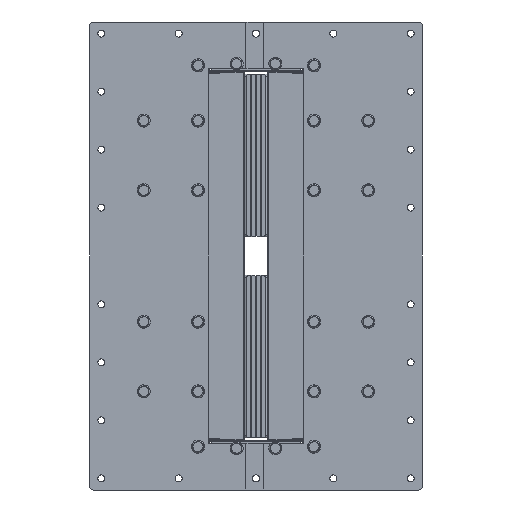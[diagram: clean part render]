
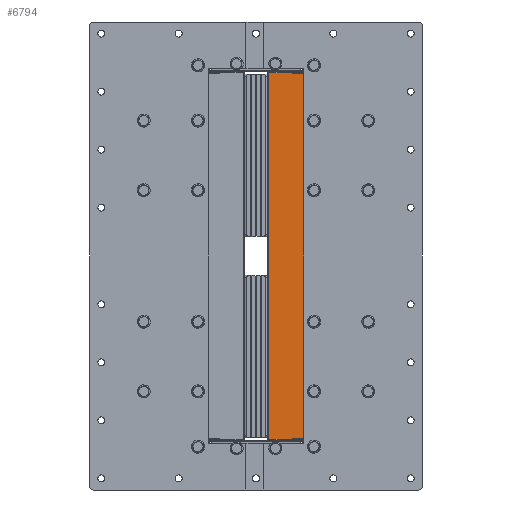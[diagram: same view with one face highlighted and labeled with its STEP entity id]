
A CAD part, left-side view. The second image highlights one B-rep face of the part: STEP entity #6794.
In plain terms, the highlighted planar face has unit normal (-1, 0, 0).
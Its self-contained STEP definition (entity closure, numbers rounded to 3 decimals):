
#5860=AXIS2_PLACEMENT_3D('Plane Axis2P3D',#5857,#5858,#5859) ;
#5994=AXIS2_PLACEMENT_3D('Circle Axis2P3D',#5992,#5993,$) ;
#6056=AXIS2_PLACEMENT_3D('Circle Axis2P3D',#6054,#6055,$) ;
#6332=AXIS2_PLACEMENT_3D('Circle Axis2P3D',#6330,#6331,$) ;
#6380=AXIS2_PLACEMENT_3D('Circle Axis2P3D',#6378,#6379,$) ;
#6688=AXIS2_PLACEMENT_3D('Circle Axis2P3D',#6686,#6687,$) ;
#6697=AXIS2_PLACEMENT_3D('Circle Axis2P3D',#6695,#6696,$) ;
#6706=AXIS2_PLACEMENT_3D('Circle Axis2P3D',#6704,#6705,$) ;
#6715=AXIS2_PLACEMENT_3D('Circle Axis2P3D',#6713,#6714,$) ;
#6724=AXIS2_PLACEMENT_3D('Circle Axis2P3D',#6722,#6723,$) ;
#6733=AXIS2_PLACEMENT_3D('Circle Axis2P3D',#6731,#6732,$) ;
#6742=AXIS2_PLACEMENT_3D('Circle Axis2P3D',#6740,#6741,$) ;
#6751=AXIS2_PLACEMENT_3D('Circle Axis2P3D',#6749,#6750,$) ;
#6760=AXIS2_PLACEMENT_3D('Circle Axis2P3D',#6758,#6759,$) ;
#6769=AXIS2_PLACEMENT_3D('Circle Axis2P3D',#6767,#6768,$) ;
#6778=AXIS2_PLACEMENT_3D('Circle Axis2P3D',#6776,#6777,$) ;
#6787=AXIS2_PLACEMENT_3D('Circle Axis2P3D',#6785,#6786,$) ;
#5857=CARTESIAN_POINT('Axis2P3D Location',(0.,0.,0.)) ;
#5898=CARTESIAN_POINT('Vertex',(0.,-60.,238.5)) ;
#5903=CARTESIAN_POINT('Line Origine',(0.,-60.,249.25)) ;
#5907=CARTESIAN_POINT('Vertex',(0.,-60.,260.)) ;
#5961=CARTESIAN_POINT('Line Origine',(0.,-69.,260.)) ;
#5965=CARTESIAN_POINT('Vertex',(0.,-78.,260.)) ;
#5992=CARTESIAN_POINT('Axis2P3D Location',(0.,-78.,255.)) ;
#5996=CARTESIAN_POINT('Vertex',(0.,-83.,255.)) ;
#6023=CARTESIAN_POINT('Line Origine',(0.,-83.,0.)) ;
#6027=CARTESIAN_POINT('Vertex',(0.,-83.,-255.)) ;
#6054=CARTESIAN_POINT('Axis2P3D Location',(0.,-78.,-255.)) ;
#6058=CARTESIAN_POINT('Vertex',(0.,-78.,-260.)) ;
#6085=CARTESIAN_POINT('Line Origine',(0.,-69.,-260.)) ;
#6089=CARTESIAN_POINT('Vertex',(0.,-60.,-260.)) ;
#6111=CARTESIAN_POINT('Line Origine',(0.,-60.,-249.25)) ;
#6115=CARTESIAN_POINT('Vertex',(0.,-60.,-238.5)) ;
#6155=CARTESIAN_POINT('Vertex',(0.,-57.5,237.)) ;
#6158=CARTESIAN_POINT('Line Origine',(0.,-57.5,237.75)) ;
#6162=CARTESIAN_POINT('Vertex',(0.,-57.5,238.5)) ;
#6193=CARTESIAN_POINT('Vertex',(0.,-16.62,237.)) ;
#6196=CARTESIAN_POINT('Line Origine',(0.,-37.06,237.)) ;
#6327=CARTESIAN_POINT('Vertex',(0.,-16.12,236.5)) ;
#6330=CARTESIAN_POINT('Axis2P3D Location',(0.,-16.62,236.5)) ;
#6351=CARTESIAN_POINT('Vertex',(0.,-16.12,-236.5)) ;
#6354=CARTESIAN_POINT('Line Origine',(0.,-16.12,0.)) ;
#6375=CARTESIAN_POINT('Vertex',(0.,-16.62,-237.)) ;
#6378=CARTESIAN_POINT('Axis2P3D Location',(0.,-16.62,-236.5)) ;
#6399=CARTESIAN_POINT('Vertex',(0.,-57.5,-237.)) ;
#6402=CARTESIAN_POINT('Line Origine',(0.,-37.06,-237.)) ;
#6418=CARTESIAN_POINT('Vertex',(0.,-57.5,-238.5)) ;
#6421=CARTESIAN_POINT('Line Origine',(0.,-57.5,-237.75)) ;
#6460=CARTESIAN_POINT('Line Origine',(0.,-58.75,-238.5)) ;
#6521=CARTESIAN_POINT('Line Origine',(0.,-58.75,238.5)) ;
#6686=CARTESIAN_POINT('Axis2P3D Location',(0.,-75.,175.)) ;
#6690=CARTESIAN_POINT('Vertex',(0.,-79.5,175.)) ;
#6692=CARTESIAN_POINT('Vertex',(0.,-70.5,175.)) ;
#6695=CARTESIAN_POINT('Axis2P3D Location',(0.,-75.,175.)) ;
#6704=CARTESIAN_POINT('Axis2P3D Location',(0.,-75.,85.)) ;
#6708=CARTESIAN_POINT('Vertex',(0.,-79.5,85.)) ;
#6710=CARTESIAN_POINT('Vertex',(0.,-70.5,85.)) ;
#6713=CARTESIAN_POINT('Axis2P3D Location',(0.,-75.,85.)) ;
#6722=CARTESIAN_POINT('Axis2P3D Location',(0.,-75.,-85.)) ;
#6726=CARTESIAN_POINT('Vertex',(0.,-79.5,-85.)) ;
#6728=CARTESIAN_POINT('Vertex',(0.,-70.5,-85.)) ;
#6731=CARTESIAN_POINT('Axis2P3D Location',(0.,-75.,-85.)) ;
#6740=CARTESIAN_POINT('Axis2P3D Location',(0.,-75.,-175.)) ;
#6744=CARTESIAN_POINT('Vertex',(0.,-79.5,-175.)) ;
#6746=CARTESIAN_POINT('Vertex',(0.,-70.5,-175.)) ;
#6749=CARTESIAN_POINT('Axis2P3D Location',(0.,-75.,-175.)) ;
#6758=CARTESIAN_POINT('Axis2P3D Location',(0.,-75.,246.5)) ;
#6762=CARTESIAN_POINT('Vertex',(0.,-79.5,246.5)) ;
#6764=CARTESIAN_POINT('Vertex',(0.,-70.5,246.5)) ;
#6767=CARTESIAN_POINT('Axis2P3D Location',(0.,-75.,246.5)) ;
#6776=CARTESIAN_POINT('Axis2P3D Location',(0.,-75.,-246.5)) ;
#6780=CARTESIAN_POINT('Vertex',(0.,-79.5,-246.5)) ;
#6782=CARTESIAN_POINT('Vertex',(0.,-70.5,-246.5)) ;
#6785=CARTESIAN_POINT('Axis2P3D Location',(0.,-75.,-246.5)) ;
#5858=DIRECTION('Axis2P3D Direction',(1.,0.,0.)) ;
#5859=DIRECTION('Axis2P3D XDirection',(0.,1.,0.)) ;
#5904=DIRECTION('Vector Direction',(0.,0.,-1.)) ;
#5962=DIRECTION('Vector Direction',(0.,-1.,0.)) ;
#5993=DIRECTION('Axis2P3D Direction',(1.,0.,0.)) ;
#6024=DIRECTION('Vector Direction',(0.,0.,1.)) ;
#6055=DIRECTION('Axis2P3D Direction',(1.,0.,0.)) ;
#6086=DIRECTION('Vector Direction',(0.,1.,0.)) ;
#6112=DIRECTION('Vector Direction',(0.,0.,-1.)) ;
#6159=DIRECTION('Vector Direction',(0.,0.,-1.)) ;
#6197=DIRECTION('Vector Direction',(0.,1.,0.)) ;
#6331=DIRECTION('Axis2P3D Direction',(1.,0.,0.)) ;
#6355=DIRECTION('Vector Direction',(0.,0.,1.)) ;
#6379=DIRECTION('Axis2P3D Direction',(1.,0.,0.)) ;
#6403=DIRECTION('Vector Direction',(0.,-1.,0.)) ;
#6422=DIRECTION('Vector Direction',(0.,0.,-1.)) ;
#6461=DIRECTION('Vector Direction',(0.,1.,0.)) ;
#6522=DIRECTION('Vector Direction',(0.,-1.,0.)) ;
#6687=DIRECTION('Axis2P3D Direction',(1.,0.,0.)) ;
#6696=DIRECTION('Axis2P3D Direction',(1.,0.,0.)) ;
#6705=DIRECTION('Axis2P3D Direction',(1.,0.,0.)) ;
#6714=DIRECTION('Axis2P3D Direction',(1.,0.,0.)) ;
#6723=DIRECTION('Axis2P3D Direction',(1.,0.,0.)) ;
#6732=DIRECTION('Axis2P3D Direction',(1.,0.,0.)) ;
#6741=DIRECTION('Axis2P3D Direction',(1.,0.,0.)) ;
#6750=DIRECTION('Axis2P3D Direction',(1.,0.,0.)) ;
#6759=DIRECTION('Axis2P3D Direction',(1.,0.,0.)) ;
#6768=DIRECTION('Axis2P3D Direction',(1.,0.,0.)) ;
#6777=DIRECTION('Axis2P3D Direction',(1.,0.,0.)) ;
#6786=DIRECTION('Axis2P3D Direction',(1.,0.,0.)) ;
#5905=VECTOR('Line Direction',#5904,1.) ;
#5963=VECTOR('Line Direction',#5962,1.) ;
#6025=VECTOR('Line Direction',#6024,1.) ;
#6087=VECTOR('Line Direction',#6086,1.) ;
#6113=VECTOR('Line Direction',#6112,1.) ;
#6160=VECTOR('Line Direction',#6159,1.) ;
#6198=VECTOR('Line Direction',#6197,1.) ;
#6356=VECTOR('Line Direction',#6355,1.) ;
#6404=VECTOR('Line Direction',#6403,1.) ;
#6423=VECTOR('Line Direction',#6422,1.) ;
#6462=VECTOR('Line Direction',#6461,1.) ;
#6523=VECTOR('Line Direction',#6522,1.) ;
#6669=ORIENTED_EDGE('',*,*,#6164,.T.) ;
#6670=ORIENTED_EDGE('',*,*,#6200,.T.) ;
#6671=ORIENTED_EDGE('',*,*,#6334,.T.) ;
#6672=ORIENTED_EDGE('',*,*,#6358,.T.) ;
#6673=ORIENTED_EDGE('',*,*,#6382,.T.) ;
#6674=ORIENTED_EDGE('',*,*,#6406,.T.) ;
#6675=ORIENTED_EDGE('',*,*,#6425,.T.) ;
#6676=ORIENTED_EDGE('',*,*,#6464,.F.) ;
#6677=ORIENTED_EDGE('',*,*,#6117,.F.) ;
#6678=ORIENTED_EDGE('',*,*,#6091,.F.) ;
#6679=ORIENTED_EDGE('',*,*,#6060,.F.) ;
#6680=ORIENTED_EDGE('',*,*,#6029,.F.) ;
#6681=ORIENTED_EDGE('',*,*,#5998,.F.) ;
#6682=ORIENTED_EDGE('',*,*,#5967,.F.) ;
#6683=ORIENTED_EDGE('',*,*,#5909,.F.) ;
#6684=ORIENTED_EDGE('',*,*,#6525,.F.) ;
#6701=ORIENTED_EDGE('',*,*,#6694,.T.) ;
#6702=ORIENTED_EDGE('',*,*,#6699,.T.) ;
#6719=ORIENTED_EDGE('',*,*,#6712,.T.) ;
#6720=ORIENTED_EDGE('',*,*,#6717,.T.) ;
#6737=ORIENTED_EDGE('',*,*,#6730,.T.) ;
#6738=ORIENTED_EDGE('',*,*,#6735,.T.) ;
#6755=ORIENTED_EDGE('',*,*,#6748,.T.) ;
#6756=ORIENTED_EDGE('',*,*,#6753,.T.) ;
#6773=ORIENTED_EDGE('',*,*,#6766,.T.) ;
#6774=ORIENTED_EDGE('',*,*,#6771,.T.) ;
#6791=ORIENTED_EDGE('',*,*,#6784,.T.) ;
#6792=ORIENTED_EDGE('',*,*,#6789,.T.) ;
#6703=FACE_BOUND('',#6700,.T.) ;
#6721=FACE_BOUND('',#6718,.T.) ;
#6739=FACE_BOUND('',#6736,.T.) ;
#6757=FACE_BOUND('',#6754,.T.) ;
#6775=FACE_BOUND('',#6772,.T.) ;
#6793=FACE_BOUND('',#6790,.T.) ;
#6794=ADVANCED_FACE('Laterale(L3)',(#6685,#6703,#6721,#6739,#6757,#6775,#6793),#5861,.F.) ;
#5995=CIRCLE('generated circle',#5994,5.) ;
#6057=CIRCLE('generated circle',#6056,5.) ;
#6333=CIRCLE('generated circle',#6332,0.5) ;
#6381=CIRCLE('generated circle',#6380,0.5) ;
#6689=CIRCLE('generated circle',#6688,4.5) ;
#6698=CIRCLE('generated circle',#6697,4.5) ;
#6707=CIRCLE('generated circle',#6706,4.5) ;
#6716=CIRCLE('generated circle',#6715,4.5) ;
#6725=CIRCLE('generated circle',#6724,4.5) ;
#6734=CIRCLE('generated circle',#6733,4.5) ;
#6743=CIRCLE('generated circle',#6742,4.5) ;
#6752=CIRCLE('generated circle',#6751,4.5) ;
#6761=CIRCLE('generated circle',#6760,4.5) ;
#6770=CIRCLE('generated circle',#6769,4.5) ;
#6779=CIRCLE('generated circle',#6778,4.5) ;
#6788=CIRCLE('generated circle',#6787,4.5) ;
#5909=EDGE_CURVE('',#5899,#5908,#5906,.F.) ;
#5967=EDGE_CURVE('',#5908,#5966,#5964,.T.) ;
#5998=EDGE_CURVE('',#5966,#5997,#5995,.T.) ;
#6029=EDGE_CURVE('',#5997,#6028,#6026,.F.) ;
#6060=EDGE_CURVE('',#6028,#6059,#6057,.T.) ;
#6091=EDGE_CURVE('',#6059,#6090,#6088,.T.) ;
#6117=EDGE_CURVE('',#6090,#6116,#6114,.F.) ;
#6164=EDGE_CURVE('',#6163,#6156,#6161,.T.) ;
#6200=EDGE_CURVE('',#6156,#6194,#6199,.T.) ;
#6334=EDGE_CURVE('',#6194,#6328,#6333,.F.) ;
#6358=EDGE_CURVE('',#6328,#6352,#6357,.F.) ;
#6382=EDGE_CURVE('',#6352,#6376,#6381,.F.) ;
#6406=EDGE_CURVE('',#6376,#6400,#6405,.T.) ;
#6425=EDGE_CURVE('',#6400,#6419,#6424,.T.) ;
#6464=EDGE_CURVE('',#6116,#6419,#6463,.T.) ;
#6525=EDGE_CURVE('',#6163,#5899,#6524,.T.) ;
#6694=EDGE_CURVE('',#6691,#6693,#6689,.T.) ;
#6699=EDGE_CURVE('',#6693,#6691,#6698,.T.) ;
#6712=EDGE_CURVE('',#6709,#6711,#6707,.T.) ;
#6717=EDGE_CURVE('',#6711,#6709,#6716,.T.) ;
#6730=EDGE_CURVE('',#6727,#6729,#6725,.T.) ;
#6735=EDGE_CURVE('',#6729,#6727,#6734,.T.) ;
#6748=EDGE_CURVE('',#6745,#6747,#6743,.T.) ;
#6753=EDGE_CURVE('',#6747,#6745,#6752,.T.) ;
#6766=EDGE_CURVE('',#6763,#6765,#6761,.T.) ;
#6771=EDGE_CURVE('',#6765,#6763,#6770,.T.) ;
#6784=EDGE_CURVE('',#6781,#6783,#6779,.T.) ;
#6789=EDGE_CURVE('',#6783,#6781,#6788,.T.) ;
#6668=EDGE_LOOP('',(#6669,#6670,#6671,#6672,#6673,#6674,#6675,#6676,#6677,#6678,#6679,#6680,#6681,#6682,#6683,#6684)) ;
#6700=EDGE_LOOP('',(#6701,#6702)) ;
#6718=EDGE_LOOP('',(#6719,#6720)) ;
#6736=EDGE_LOOP('',(#6737,#6738)) ;
#6754=EDGE_LOOP('',(#6755,#6756)) ;
#6772=EDGE_LOOP('',(#6773,#6774)) ;
#6790=EDGE_LOOP('',(#6791,#6792)) ;
#6685=FACE_OUTER_BOUND('',#6668,.T.) ;
#5906=LINE('Line',#5903,#5905) ;
#5964=LINE('Line',#5961,#5963) ;
#6026=LINE('Line',#6023,#6025) ;
#6088=LINE('Line',#6085,#6087) ;
#6114=LINE('Line',#6111,#6113) ;
#6161=LINE('Line',#6158,#6160) ;
#6199=LINE('Line',#6196,#6198) ;
#6357=LINE('Line',#6354,#6356) ;
#6405=LINE('Line',#6402,#6404) ;
#6424=LINE('Line',#6421,#6423) ;
#6463=LINE('Line',#6460,#6462) ;
#6524=LINE('Line',#6521,#6523) ;
#5861=PLANE('',#5860) ;
#5899=VERTEX_POINT('',#5898) ;
#5908=VERTEX_POINT('',#5907) ;
#5966=VERTEX_POINT('',#5965) ;
#5997=VERTEX_POINT('',#5996) ;
#6028=VERTEX_POINT('',#6027) ;
#6059=VERTEX_POINT('',#6058) ;
#6090=VERTEX_POINT('',#6089) ;
#6116=VERTEX_POINT('',#6115) ;
#6156=VERTEX_POINT('',#6155) ;
#6163=VERTEX_POINT('',#6162) ;
#6194=VERTEX_POINT('',#6193) ;
#6328=VERTEX_POINT('',#6327) ;
#6352=VERTEX_POINT('',#6351) ;
#6376=VERTEX_POINT('',#6375) ;
#6400=VERTEX_POINT('',#6399) ;
#6419=VERTEX_POINT('',#6418) ;
#6691=VERTEX_POINT('',#6690) ;
#6693=VERTEX_POINT('',#6692) ;
#6709=VERTEX_POINT('',#6708) ;
#6711=VERTEX_POINT('',#6710) ;
#6727=VERTEX_POINT('',#6726) ;
#6729=VERTEX_POINT('',#6728) ;
#6745=VERTEX_POINT('',#6744) ;
#6747=VERTEX_POINT('',#6746) ;
#6763=VERTEX_POINT('',#6762) ;
#6765=VERTEX_POINT('',#6764) ;
#6781=VERTEX_POINT('',#6780) ;
#6783=VERTEX_POINT('',#6782) ;
